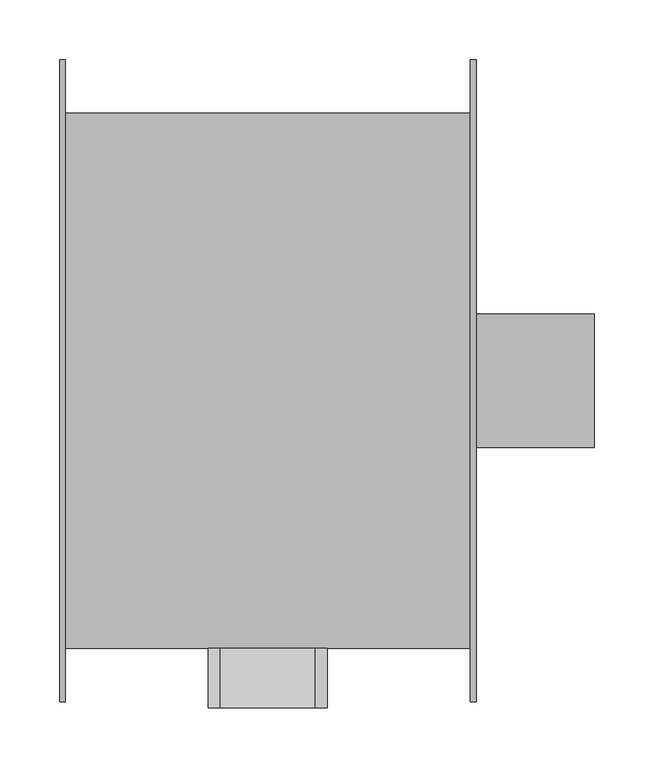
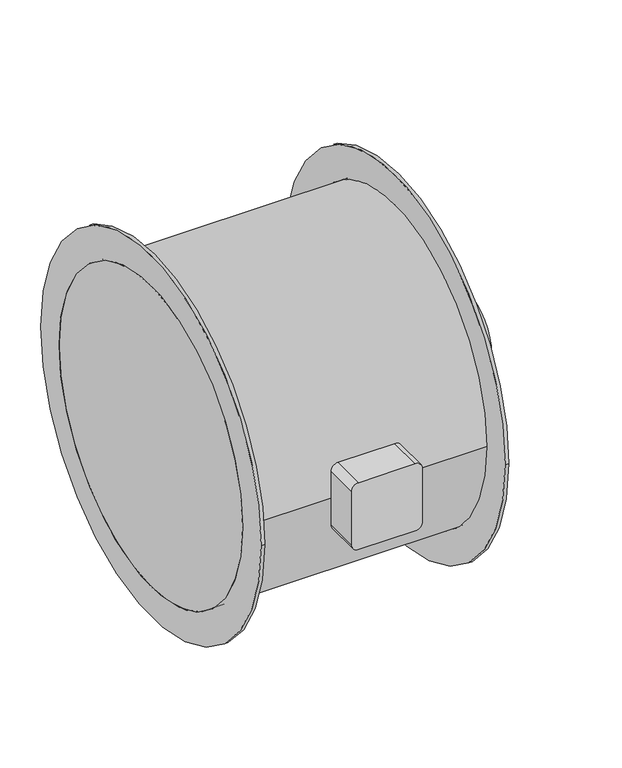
"""IFC4 building model written with IfcOpenShell, lengths in millimetres: unitary equipment geometry, VE-Wentylator-ParaForma-Harmann-AXER-Nawiewny : 450/2/12500T."""

import ifcopenshell
import ifcopenshell.guid

model = None  # the IFC model being written
_history = None  # IfcOwnerHistory: only IFC2X3 demands one
_inside = {}  # id of a spatial element -> (the spatial element, [elements in it])
_under = {}  # id of a project, library or spatial element -> (it, [spatial elements below it])
_declared = {}  # id of a project -> (the project, [libraries it declares])
_typed = {}  # id of a type object -> (the type object, [elements of that type])
_made_of = {}  # id of a material, layer set ... -> (it, [elements and type objects made of it])


def new_model(schema):
    """Start an empty IFC model of exactly this schema.

    Asked for "IFC4X3", IfcOpenShell would pick the latest addendum, in which some entities
    have other attributes; the version numbers below select the first issue.
    IFC2X3 requires an IfcOwnerHistory on every rooted entity: one is made here for all.
    """
    global model, _history
    if schema == "IFC4X3":
        model = ifcopenshell.file(schema_version=(4, 3, 0, 0))
    else:
        model = ifcopenshell.file(schema=schema)
    _inside.clear()
    _under.clear()
    _declared.clear()
    _typed.clear()
    _made_of.clear()
    _history = None
    if model.schema == "IFC2X3":
        org = make("IfcOrganization", Name="unknown")
        user = make(
            "IfcPersonAndOrganization",
            ThePerson=make("IfcPerson", FamilyName="unknown"),
            TheOrganization=org,
        )
        app = make(
            "IfcApplication",
            ApplicationDeveloper=org,
            Version="unknown",
            ApplicationFullName="unknown",
            ApplicationIdentifier="unknown",
        )
        _history = make(
            "IfcOwnerHistory",
            OwningUser=user,
            OwningApplication=app,
            ChangeAction="ADDED",
            CreationDate=0,
        )
    return model


def make(cls, **values):
    """One entity of the class cls with the attributes given. An attribute that is None is left unset."""
    return model.create_entity(
        cls, **{name: value for name, value in values.items() if value is not None}
    )


def rooted(cls, **values):
    """An entity with a GlobalId (a new one), such as an element, a storey or a relation."""
    return make(cls, GlobalId=ifcopenshell.guid.new(), OwnerHistory=_history, **values)


def si_unit(unit_type, name, prefix=None):
    """IfcSIUnit, for example si_unit("LENGTHUNIT", "METRE", prefix="MILLI")."""
    return make("IfcSIUnit", UnitType=unit_type, Prefix=prefix, Name=name)


def assignment(units):
    """IfcUnitAssignment: the units of a project."""
    return None if units is None else make("IfcUnitAssignment", Units=units)


def point(xyz):
    """IfcCartesianPoint."""
    return None if xyz is None else make("IfcCartesianPoint", Coordinates=xyz)


def direction(xyz):
    """IfcDirection."""
    return None if xyz is None else make("IfcDirection", DirectionRatios=xyz)


def frame(location, z_axis=None, x_axis=None):
    """IfcAxis2Placement3D, a coordinate frame: its origin and axes. An axis left out is left unset."""
    return make(
        "IfcAxis2Placement3D",
        Location=point(location),
        Axis=direction(z_axis),
        RefDirection=direction(x_axis),
    )


def frame_2d(location, x_axis=None):
    """IfcAxis2Placement2D, a coordinate frame in the plane: its origin and x axis."""
    return make(
        "IfcAxis2Placement2D", Location=point(location), RefDirection=direction(x_axis)
    )


def origin():
    """The frame at (0, 0, 0) with its axes left unset."""
    return frame((0.0, 0.0, 0.0))


def origin_2d():
    """The frame at (0, 0) in the plane with its x axis left unset."""
    return frame_2d((0.0, 0.0))


def place(relative_to, where):
    """IfcLocalPlacement: puts the frame where relative to a parent placement (None: the world)."""
    return make(
        "IfcLocalPlacement", PlacementRelTo=relative_to, RelativePlacement=where
    )


def context(
    kind, dimensions, precision=None, world=None, true_north=None, identifier=None
):
    """IfcGeometricRepresentationContext, for example the 3D "Model" context."""
    return make(
        "IfcGeometricRepresentationContext",
        ContextIdentifier=identifier,
        ContextType=kind,
        CoordinateSpaceDimension=dimensions,
        Precision=precision,
        WorldCoordinateSystem=world,
        TrueNorth=true_north,
    )


def project(units=None, contexts=None):
    """IfcProject with its units and contexts."""
    return rooted(
        "IfcProject",
        Name="project",
        RepresentationContexts=contexts,
        UnitsInContext=assignment(units),
    )


def spatial(cls, under=None, at=None, **own):
    """A site, building, storey or space (cls), placed at a placement, below another one or the project."""
    s = rooted(cls, ObjectPlacement=at, **own)
    if under is not None:
        _under.setdefault(under.id(), (under, []))[1].append(s)
    return s


def polyline(points):
    """IfcPolyline through the points."""
    return make("IfcPolyline", Points=[point(p) for p in points])


def circle_curve(where, radius):
    """IfcCircle in the frame where."""
    return make("IfcCircle", Position=where, Radius=radius)


def trimmed(basis, trim1, trim2, sense, master):
    """IfcTrimmedCurve: the piece of a basis curve between two trims."""
    return make(
        "IfcTrimmedCurve",
        BasisCurve=basis,
        Trim1=trim1,
        Trim2=trim2,
        SenseAgreement=sense,
        MasterRepresentation=master,
    )


def segment(curve, same_sense, transition):
    """IfcCompositeCurveSegment."""
    return make(
        "IfcCompositeCurveSegment",
        Transition=transition,
        SameSense=same_sense,
        ParentCurve=curve,
    )


def composite_curve(segments, self_intersect=None):
    """IfcCompositeCurve: segments joined end to end."""
    return make("IfcCompositeCurve", Segments=segments, SelfIntersect=self_intersect)


def outline(outer, holes=None, kind="AREA"):
    """IfcArbitraryClosedProfileDef: a profile drawn as a closed curve; with holes, ...WithVoids."""
    if holes is None:
        return make("IfcArbitraryClosedProfileDef", ProfileType=kind, OuterCurve=outer)
    return make(
        "IfcArbitraryProfileDefWithVoids",
        ProfileType=kind,
        OuterCurve=outer,
        InnerCurves=holes,
    )


def extrude(swept, where, along, depth):
    """IfcExtrudedAreaSolid: the profile swept, set in the frame where, extruded along a direction by depth."""
    return make(
        "IfcExtrudedAreaSolid",
        SweptArea=swept,
        Position=where,
        ExtrudedDirection=direction(along),
        Depth=depth,
    )


def shape(context_of_items, identifier, shape_type, items):
    """IfcShapeRepresentation: the items that make up one representation, for example the "Body"."""
    return make(
        "IfcShapeRepresentation",
        ContextOfItems=context_of_items,
        RepresentationIdentifier=identifier,
        RepresentationType=shape_type,
        Items=items,
    )


def source(mapping_origin, context_of_items, identifier, shape_type, items):
    """IfcRepresentationMap: a shape defined once, which mapped items show again and again."""
    return make(
        "IfcRepresentationMap",
        MappingOrigin=mapping_origin,
        MappedRepresentation=shape(context_of_items, identifier, shape_type, items),
    )


def transform(
    local_origin,
    x_axis=None,
    y_axis=None,
    z_axis=None,
    scale=None,
    scale2=None,
    scale3=None,
    uniform=True,
):
    """IfcCartesianTransformationOperator3D, or its non-uniform kind. x_axis, y_axis, z_axis: its Axis1, 2, 3."""
    if uniform:
        return make(
            "IfcCartesianTransformationOperator3D",
            Axis1=direction(x_axis),
            Axis2=direction(y_axis),
            LocalOrigin=point(local_origin),
            Scale=scale,
            Axis3=direction(z_axis),
        )
    return make(
        "IfcCartesianTransformationOperator3DnonUniform",
        Axis1=direction(x_axis),
        Axis2=direction(y_axis),
        LocalOrigin=point(local_origin),
        Scale=scale,
        Axis3=direction(z_axis),
        Scale2=scale2,
        Scale3=scale3,
    )


def mapped(mapping_source, mapping_target):
    """IfcMappedItem: shows the shape of a source again, moved by a transform."""
    return make(
        "IfcMappedItem", MappingSource=mapping_source, MappingTarget=mapping_target
    )


def made_of(thing, what):
    """Note that an element or type object is made of a material, layer set ...; save() writes the relation."""
    if what is not None:
        _made_of.setdefault(what.id(), (what, []))[1].append(thing)
    return thing


def element(
    cls,
    number,
    at=None,
    inside=None,
    cuts=None,
    type_object=None,
    material=None,
    context=None,
    identifier="Body",
    shape_type=None,
    held_by="IfcProductDefinitionShape",
    body=None,
    shapes=None,
    **own,
):
    """One element of the class cls, such as IfcWall. Its Tag is "e" and its number.

    at: its placement. inside: the storey or other place that contains it. cuts: it is an
    opening in that element (IfcRelVoidsElement). A single representation is given by context,
    identifier, shape_type and body (its items); several are given by shapes. held_by: the class
    of the entity that holds the representations. save() writes the other relations.
    """
    e = rooted(cls, Tag="e%d" % number, ObjectPlacement=at, **own)
    if body is not None:
        shapes = [shape(context, identifier, shape_type, body)]
    if shapes is not None:
        e.Representation = make(held_by, Representations=shapes)
    if inside is not None:
        _inside.setdefault(inside.id(), (inside, []))[1].append(e)
    if cuts is not None:
        rooted(
            "IfcRelVoidsElement", RelatingBuildingElement=cuts, RelatedOpeningElement=e
        )
    if type_object is not None:
        _typed.setdefault(type_object.id(), (type_object, []))[1].append(e)
    return made_of(e, material)


def aggregate(whole, parts):
    """IfcRelAggregates: a whole, such as a stair, and the parts it consists of."""
    return rooted("IfcRelAggregates", RelatingObject=whole, RelatedObjects=parts)


def save(model, path):
    """Write the relations noted so far, then the file.

    IfcRelAggregates (storeys below a building ...), IfcRelContainedInSpatialStructure (elements
    in a storey), IfcRelDefinesByType, IfcRelAssociatesMaterial and IfcRelDeclares: one each for
    every whole, place, type object, material and project.
    """
    for whole, parts in _under.values():
        aggregate(whole, parts)
    for where, things in _inside.values():
        rooted(
            "IfcRelContainedInSpatialStructure",
            RelatedElements=things,
            RelatingStructure=where,
        )
    for kind, things in _typed.values():
        rooted("IfcRelDefinesByType", RelatedObjects=things, RelatingType=kind)
    for what, things in _made_of.values():
        rooted("IfcRelAssociatesMaterial", RelatedObjects=things, RelatingMaterial=what)
    for by, libraries in _declared.values():
        rooted("IfcRelDeclares", RelatingContext=by, RelatedDefinitions=libraries)
    model.write(path)


def unitary_equipment_6894d806(model_context):
    return source(origin(), model_context, "Body", "SweptSolid", [
        extrude(outline(composite_curve([segment(trimmed(circle_curve(origin_2d(), 56.25), [point((-56.25, 0.0))], [point((56.25, 0.0))], False, "CARTESIAN"), True, "CONTINUOUS"), segment(trimmed(circle_curve(origin_2d(), 56.25), [point((56.25, 0.0))], [point((-56.25, 0.0))], False, "CARTESIAN"), True, "CONTINUOUS")], self_intersect=False)), frame((175.0, 0.0, 0.0), z_axis=(1.0, 0.0, 0.0), x_axis=(0.0, 1.0, 0.0)), (0.0, 0.0, 1.0), 99.0),
        extrude(outline(composite_curve([segment(trimmed(circle_curve(frame_2d((-40.0, 40.0)), 10.0), [point((-50.0, 40.0))], [point((-40.0, 50.0))], False, "CARTESIAN"), True, "CONTINUOUS"), segment(polyline([(-40.0, 50.0), (40.0, 50.0)]), True, "CONTINUOUS"), segment(trimmed(circle_curve(frame_2d((40.0, 40.0)), 10.0), [point((40.0, 50.0))], [point((50.0, 40.0))], False, "CARTESIAN"), True, "CONTINUOUS"), segment(polyline([(50.0, 40.0), (50.0, -40.0)]), True, "CONTINUOUS"), segment(trimmed(circle_curve(frame_2d((40.0, -40.0)), 10.0), [point((50.0, -40.0))], [point((40.0, -50.0))], False, "CARTESIAN"), True, "CONTINUOUS"), segment(polyline([(40.0, -50.0), (-40.0, -50.0)]), True, "CONTINUOUS"), segment(trimmed(circle_curve(frame_2d((-40.0, -40.0)), 10.0), [point((-40.0, -50.0))], [point((-50.0, -40.0))], False, "CARTESIAN"), True, "CONTINUOUS"), segment(polyline([(-50.0, -40.0), (-50.0, 40.0)]), True, "CONTINUOUS")], self_intersect=False)), frame((0.0, -275.0, 0.0), z_axis=(0.0, 1.0, 0.0), x_axis=(0.0, 0.0, 1.0)), (0.0, 0.0, 1.0), 50.0),
        extrude(outline(composite_curve([segment(trimmed(circle_curve(origin_2d(), 270.0), [point((-270.0, 0.0))], [point((270.0, 0.0))], False, "CARTESIAN"), True, "CONTINUOUS"), segment(trimmed(circle_curve(origin_2d(), 270.0), [point((270.0, 0.0))], [point((-270.0, 0.0))], False, "CARTESIAN"), True, "CONTINUOUS")], self_intersect=False), holes=[composite_curve([segment(trimmed(circle_curve(origin_2d(), 225.0), [point((-225.0, 0.0))], [point((225.0, 0.0))], True, "CARTESIAN"), True, "CONTINUOUS"), segment(trimmed(circle_curve(origin_2d(), 225.0), [point((225.0, 0.0))], [point((-225.0, 0.0))], True, "CARTESIAN"), True, "CONTINUOUS")], self_intersect=False)]), frame((170.0, 0.0, 0.0), z_axis=(1.0, 0.0, 0.0), x_axis=(0.0, 1.0, 0.0)), (0.0, 0.0, 1.0), 5.0),
        extrude(outline(composite_curve([segment(trimmed(circle_curve(origin_2d(), 270.0), [point((-270.0, 0.0))], [point((270.0, 0.0))], False, "CARTESIAN"), True, "CONTINUOUS"), segment(trimmed(circle_curve(origin_2d(), 270.0), [point((270.0, 0.0))], [point((-270.0, 0.0))], False, "CARTESIAN"), True, "CONTINUOUS")], self_intersect=False), holes=[composite_curve([segment(trimmed(circle_curve(origin_2d(), 225.0), [point((-225.0, 0.0))], [point((225.0, 0.0))], True, "CARTESIAN"), True, "CONTINUOUS"), segment(trimmed(circle_curve(origin_2d(), 225.0), [point((225.0, 0.0))], [point((-225.0, 0.0))], True, "CARTESIAN"), True, "CONTINUOUS")], self_intersect=False)]), frame((-175.0, 0.0, 0.0), z_axis=(1.0, 0.0, 0.0), x_axis=(0.0, 1.0, 0.0)), (0.0, 0.0, 1.0), 5.0),
        extrude(outline(composite_curve([segment(trimmed(circle_curve(origin_2d(), 225.0), [point((-225.0, 0.0))], [point((225.0, 0.0))], False, "CARTESIAN"), True, "CONTINUOUS"), segment(trimmed(circle_curve(origin_2d(), 225.0), [point((225.0, 0.0))], [point((-225.0, 0.0))], False, "CARTESIAN"), True, "CONTINUOUS")], self_intersect=False)), frame((-175.0, 0.0, 0.0), z_axis=(1.0, 0.0, 0.0), x_axis=(0.0, 1.0, 0.0)), (0.0, 0.0, 1.0), 350.0),
    ])


if __name__ == "__main__":
    model = new_model("IFC4")
    model_context = context("Model", 3, world=origin())
    ifc_project = project(units=[si_unit("LENGTHUNIT", "METRE", prefix="MILLI")], contexts=[model_context])
    site = spatial("IfcSite", under=ifc_project)
    building = spatial("IfcBuilding", under=site)
    placement = place(None, origin())
    unitary_equipment_shape = unitary_equipment_6894d806(model_context)
    element("IfcUnitaryEquipment", 1, ObjectType="VE-Wentylator-ParaForma-Harmann-AXER-Nawiewny : 450/2/12500T", at=placement, inside=building, context=model_context, shape_type="MappedRepresentation", body=[
        mapped(unitary_equipment_shape, transform((0.0, 0.0, 0.0), x_axis=(1.0, 0.0, 0.0), y_axis=(0.0, 1.0, 0.0), z_axis=(0.0, 0.0, 1.0))),
    ])
    save(model, "model.ifc")
